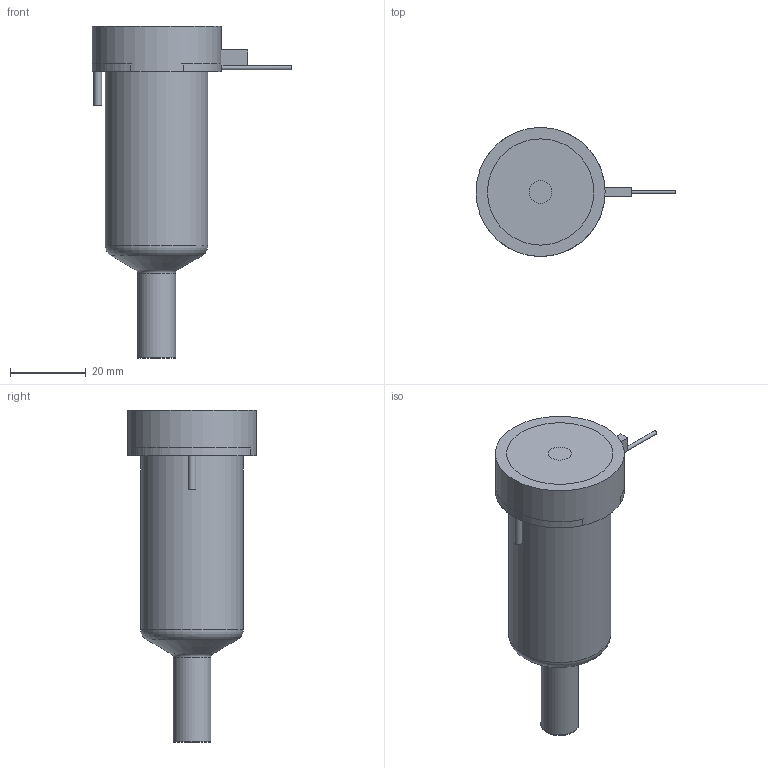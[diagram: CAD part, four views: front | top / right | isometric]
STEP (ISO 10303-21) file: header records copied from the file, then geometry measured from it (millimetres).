
FILE_DESCRIPTION(/* description */ (''),/* implementation_level */ '2;1');
FILE_NAME(/* name */ 'BXYCN13055N3U_250C_a',/* time_stamp */ '2016-02-22T10:06:06+13:00',/* author */ (''),/* organization */ (''),/* preprocessor_version */ 'ST-DEVELOPER v9',/* originating_system */ 'UGS - NX 4.0',/* authorisation */ '');
FILE_SCHEMA (('CONFIG_CONTROL_DESIGN'));
Length unit declared in the file: millimetre
Products named in the file (1): MattBE97wzlv
Bounding box: 52.65 x 34 x 87.47 mm (x, y, z)
Volume: 70532.1 mm3; surface area: 16057.3 mm2
Topology: 2 solids, 2 shells, 64 faces, 137 edges, 89 vertices
Faces by surface type: plane 29, cylinder 21, torus 7, cone 5, bspline 1, sphere 1
Full cylindrical faces by diameter (mm): 1 x2, 1.3 x1, 2 x1, 4 x1, 6 x1, 9.61 x1, 9.995 x2, 12.6 x1, 22.2 x1, 27 x1, 34 x1
Entity records: 1835 total; most frequent: CARTESIAN_POINT 464, DIRECTION 282, ORIENTED_EDGE 212, AXIS2_PLACEMENT_3D 122, EDGE_CURVE 106, EDGE_LOOP 102, VERTEX_POINT 82, ADVANCED_FACE 64
